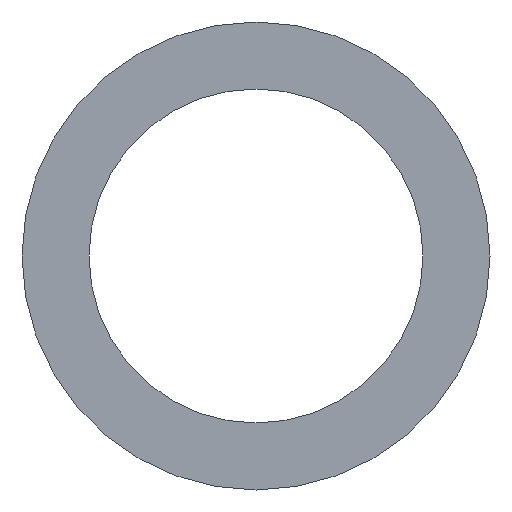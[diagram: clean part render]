
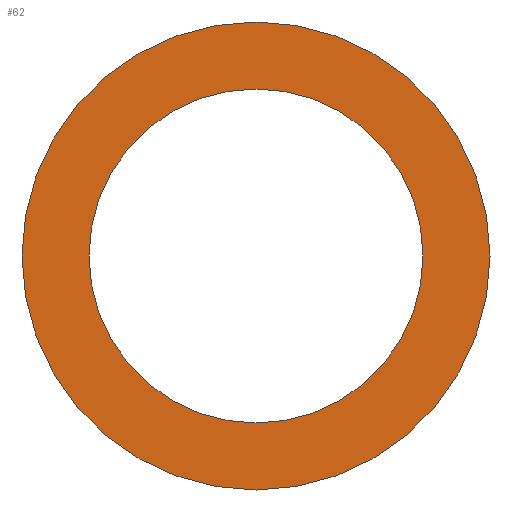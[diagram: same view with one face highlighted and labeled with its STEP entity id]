
A CAD part, front view. The second image highlights one B-rep face of the part: STEP entity #62.
In plain terms, the highlighted planar face has unit normal (0, -1, 0).
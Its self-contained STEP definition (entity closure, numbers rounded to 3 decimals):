
#20=PLANE('',#83);
#26=ORIENTED_EDGE('',*,*,#30,.T.);
#27=ORIENTED_EDGE('',*,*,#32,.F.);
#30=EDGE_CURVE('',#34,#34,#38,.T.);
#32=EDGE_CURVE('',#36,#36,#40,.T.);
#34=VERTEX_POINT('',#106);
#36=VERTEX_POINT('',#111);
#38=CIRCLE('',#78,248.);
#40=CIRCLE('',#81,347.5);
#46=EDGE_LOOP('',(#26));
#47=EDGE_LOOP('',(#27));
#54=FACE_BOUND('',#46,.T.);
#55=FACE_BOUND('',#47,.T.);
#62=ADVANCED_FACE('',(#54,#55),#20,.F.);
#78=AXIS2_PLACEMENT_3D('',#105,#89,#90);
#81=AXIS2_PLACEMENT_3D('',#110,#95,#96);
#83=AXIS2_PLACEMENT_3D('',#114,#99,#100);
#89=DIRECTION('',(0.,1.,0.));
#90=DIRECTION('',(1.,0.,0.));
#95=DIRECTION('',(0.,1.,0.));
#96=DIRECTION('',(1.,0.,0.));
#99=DIRECTION('',(0.,1.,0.));
#100=DIRECTION('',(0.,0.,1.));
#105=CARTESIAN_POINT('',(0.,-1.5,0.));
#106=CARTESIAN_POINT('',(248.,-1.5,0.));
#110=CARTESIAN_POINT('',(0.,-1.5,0.));
#111=CARTESIAN_POINT('',(347.5,-1.5,0.));
#114=CARTESIAN_POINT('',(0.,-1.5,0.));
